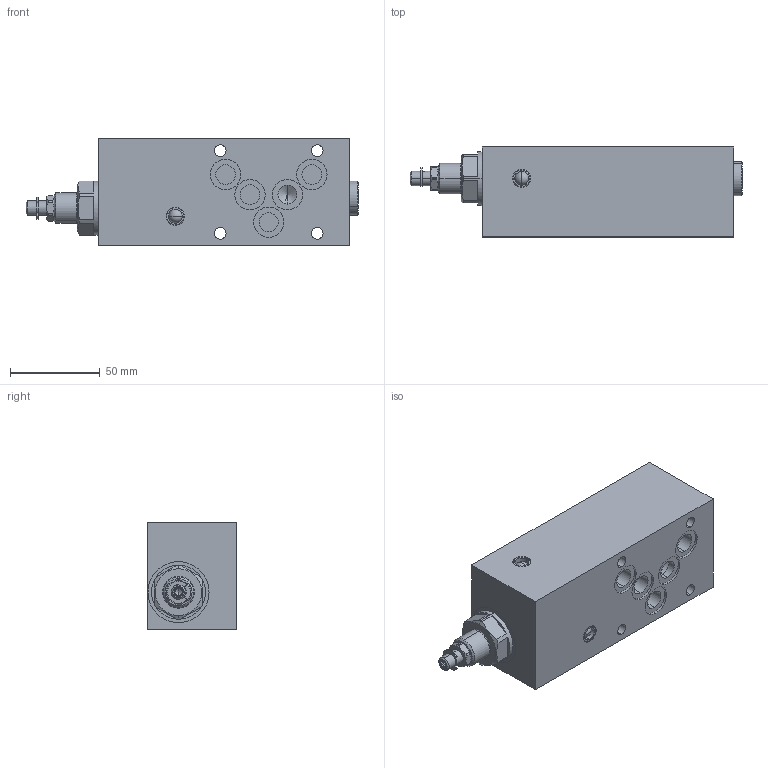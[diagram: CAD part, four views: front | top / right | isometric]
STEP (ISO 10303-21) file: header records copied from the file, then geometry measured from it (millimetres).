
FILE_DESCRIPTION (( 'STEP AP214' ), '1' );
FILE_NAME ('MVSFA10-P_A.STEP', '2017-03-23T06:17:03', ( '' ), ( '' ), 'SwSTEP 2.0', 'SolidWorks 2016', '' );
FILE_SCHEMA (( 'AUTOMOTIVE_DESIGN' ));
Length unit declared in the file: millimetre
Products named in the file (1): MVSFA10-P_A
Bounding box: 184.8 x 50 x 60 mm (x, y, z)
Volume: 418343.1 mm3; surface area: 46908.9 mm2
Topology: 2 solids, 6 shells, 318 faces, 781 edges, 501 vertices
Faces by surface type: plane 127, cylinder 106, cone 49, sphere 16, bspline 16, torus 4
Entity records: 13959 total; most frequent: CARTESIAN_POINT 2853, DIRECTION 1616, ORIENTED_EDGE 1534, EDGE_CURVE 767, AXIS2_PLACEMENT_3D 628, VERTEX_POINT 501, EDGE_LOOP 370, VECTOR 360
